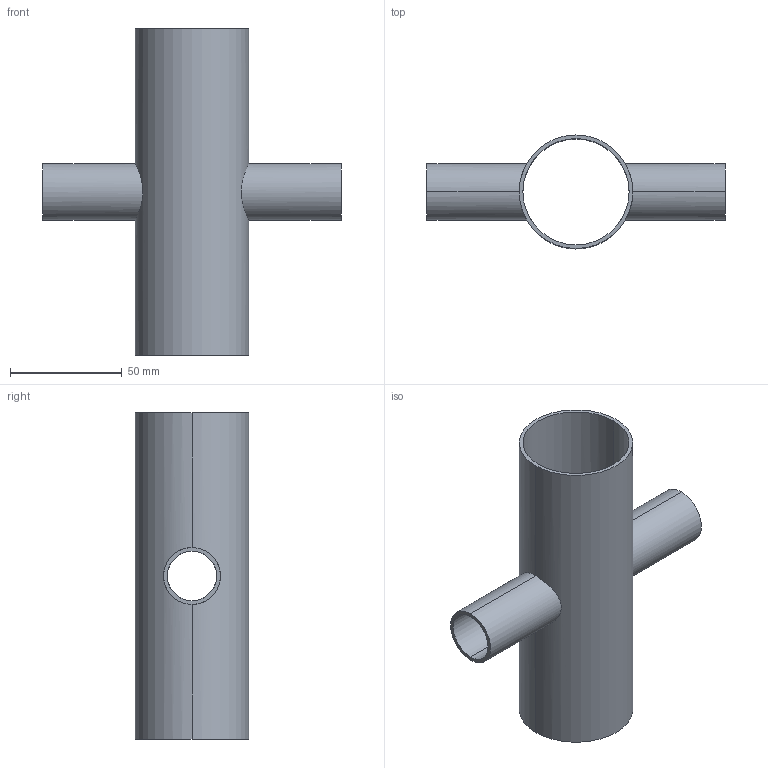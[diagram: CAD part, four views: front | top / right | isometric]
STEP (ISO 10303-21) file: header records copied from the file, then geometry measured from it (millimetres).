
FILE_DESCRIPTION (( 'STEP AP214' ), '1' );
FILE_NAME ('TE9RWWWW6L2.0x1.0-...STEP', '2016-05-22T04:16:17', ( 'eran' ), ( '' ), 'SwSTEP 2.0', 'SolidWorks 2016', '' );
FILE_SCHEMA (( 'AUTOMOTIVE_DESIGN' ));
Length unit declared in the file: millimetre
Products named in the file (1): TE9RWWWW6L2.0x1.0-..
Bounding box: 133.35 x 50.8 x 146.05 mm (x, y, z)
Volume: 46458.2 mm3; surface area: 57020.4 mm2
Topology: 1 solids, 1 shells, 16 faces, 40 edges, 24 vertices
Faces by surface type: cylinder 12, plane 4
Entity records: 914 total; most frequent: CARTESIAN_POINT 489, DIRECTION 82, ORIENTED_EDGE 80, EDGE_CURVE 40, AXIS2_PLACEMENT_3D 33, VERTEX_POINT 24, EDGE_LOOP 20, CIRCLE 16
